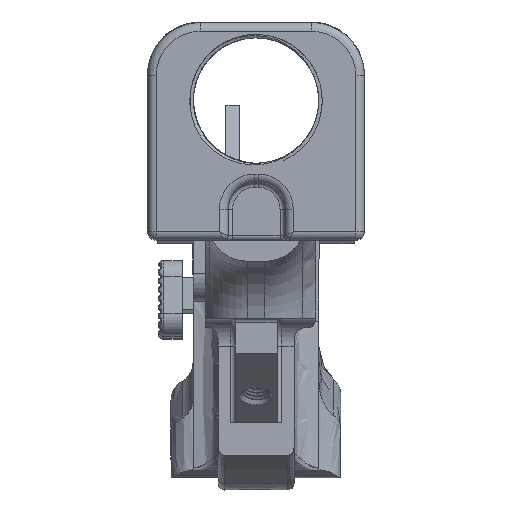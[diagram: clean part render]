
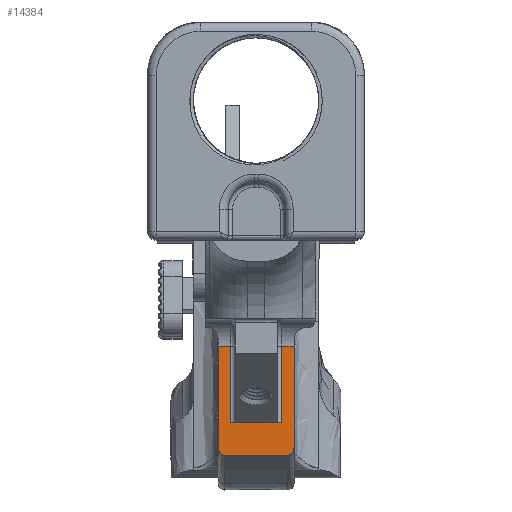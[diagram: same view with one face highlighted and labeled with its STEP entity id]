
A CAD part, front view. The second image highlights one B-rep face of the part: STEP entity #14384.
In plain terms, the highlighted planar face has unit normal (0, -1, 0).
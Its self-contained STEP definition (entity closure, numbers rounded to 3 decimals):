
#336=PLANE('',#15451);
#1019=LINE('',#29492,#1927);
#1023=LINE('',#29514,#1931);
#1040=LINE('',#29679,#1948);
#1042=LINE('',#29725,#1950);
#1043=LINE('',#29727,#1951);
#1044=LINE('',#29728,#1952);
#1045=LINE('',#29743,#1953);
#1046=LINE('',#29756,#1954);
#1927=VECTOR('',#17614,25.502);
#1931=VECTOR('',#17638,25.502);
#1948=VECTOR('',#17677,1.);
#1950=VECTOR('',#17693,9.525);
#1951=VECTOR('',#17694,10.);
#1952=VECTOR('',#17695,10.);
#1953=VECTOR('',#17696,10.);
#1954=VECTOR('',#17697,10.);
#2966=FACE_OUTER_BOUND('',#3810,.T.);
#3810=EDGE_LOOP('',(#11253,#11254,#11255,#11256,#11257,#11258,#11259,#11260,
#11261,#11262));
#4660=B_SPLINE_CURVE_WITH_KNOTS('',3,(#29730,#29731,#29732,#29733,#29734,
#29735,#29736,#29737,#29738,#29739,#29740,#29741),.UNSPECIFIED.,.F.,.F.,
(4,2,2,2,2,4),(0.,0.047,0.099,0.163,
0.214,0.267),.UNSPECIFIED.);
#4661=B_SPLINE_CURVE_WITH_KNOTS('',3,(#29744,#29745,#29746,#29747,#29748,
#29749,#29750,#29751,#29752,#29753,#29754,#29755),.UNSPECIFIED.,.F.,.F.,
(4,2,2,2,2,4),(0.,0.09,0.167,0.225,
0.253,0.281),.UNSPECIFIED.);
#6384=VERTEX_POINT('',#29482);
#6385=VERTEX_POINT('',#29491);
#6392=VERTEX_POINT('',#29511);
#6393=VERTEX_POINT('',#29513);
#6420=VERTEX_POINT('',#29678);
#6427=VERTEX_POINT('',#29723);
#6428=VERTEX_POINT('',#29724);
#6429=VERTEX_POINT('',#29726);
#6430=VERTEX_POINT('',#29729);
#6431=VERTEX_POINT('',#29742);
#8167=EDGE_CURVE('',#6385,#6384,#1019,.T.);
#8178=EDGE_CURVE('',#6392,#6393,#1023,.T.);
#8212=EDGE_CURVE('',#6392,#6420,#1040,.T.);
#8221=EDGE_CURVE('',#6427,#6428,#1042,.T.);
#8222=EDGE_CURVE('',#6429,#6427,#1043,.T.);
#8223=EDGE_CURVE('',#6429,#6385,#1044,.T.);
#8224=EDGE_CURVE('',#6430,#6384,#4660,.T.);
#8225=EDGE_CURVE('',#6430,#6431,#1045,.T.);
#8226=EDGE_CURVE('',#6393,#6431,#4661,.T.);
#8227=EDGE_CURVE('',#6428,#6420,#1046,.T.);
#11253=ORIENTED_EDGE('',*,*,#8221,.F.);
#11254=ORIENTED_EDGE('',*,*,#8222,.F.);
#11255=ORIENTED_EDGE('',*,*,#8223,.T.);
#11256=ORIENTED_EDGE('',*,*,#8167,.T.);
#11257=ORIENTED_EDGE('',*,*,#8224,.F.);
#11258=ORIENTED_EDGE('',*,*,#8225,.T.);
#11259=ORIENTED_EDGE('',*,*,#8226,.F.);
#11260=ORIENTED_EDGE('',*,*,#8178,.F.);
#11261=ORIENTED_EDGE('',*,*,#8212,.T.);
#11262=ORIENTED_EDGE('',*,*,#8227,.F.);
#14384=ADVANCED_FACE('',(#2966),#336,.T.);
#15451=AXIS2_PLACEMENT_3D('',#29722,#17691,#17692);
#17614=DIRECTION('',(0.,0.,-1.));
#17638=DIRECTION('',(0.,0.,-1.));
#17677=DIRECTION('',(-1.,0.,0.));
#17691=DIRECTION('center_axis',(0.,-1.,
0.));
#17692=DIRECTION('ref_axis',(0.,0.,1.));
#17693=DIRECTION('',(1.,0.,0.));
#17694=DIRECTION('',(0.,0.,-1.));
#17695=DIRECTION('',(-1.,0.,0.));
#17696=DIRECTION('',(1.,0.,0.));
#17697=DIRECTION('',(0.,0.,1.));
#29482=CARTESIAN_POINT('',(13.64,-58.86,-41.116));
#29491=CARTESIAN_POINT('',(13.641,-58.86,-18.29));
#29492=CARTESIAN_POINT('',(13.641,-58.86,-18.343));
#29511=CARTESIAN_POINT('',(30.939,-58.853,-18.291));
#29513=CARTESIAN_POINT('',(30.938,-58.853,-41.117));
#29514=CARTESIAN_POINT('',(30.939,-58.853,-18.343));
#29678=CARTESIAN_POINT('',(28.053,-58.854,-18.29));
#29679=CARTESIAN_POINT('',(30.939,-58.853,-18.291));
#29722=CARTESIAN_POINT('Origin',(30.938,-58.853,-44.607));
#29723=CARTESIAN_POINT('',(16.527,-58.859,-35.615));
#29724=CARTESIAN_POINT('',(28.052,-58.854,-35.615));
#29725=CARTESIAN_POINT('',(17.527,-58.859,-35.615));
#29726=CARTESIAN_POINT('',(16.528,-58.859,-18.29));
#29727=CARTESIAN_POINT('',(16.528,-58.859,-14.741));
#29728=CARTESIAN_POINT('',(10.781,-58.861,-18.29));
#29729=CARTESIAN_POINT('',(15.14,-58.86,-43.006));
#29730=CARTESIAN_POINT('Ctrl Pts',(15.14,-58.86,-43.006));
#29731=CARTESIAN_POINT('Ctrl Pts',(14.983,-58.86,-43.006));
#29732=CARTESIAN_POINT('Ctrl Pts',(14.83,-58.86,-42.975));
#29733=CARTESIAN_POINT('Ctrl Pts',(14.523,-58.86,-42.852));
#29734=CARTESIAN_POINT('Ctrl Pts',(14.378,-58.86,-42.756));
#29735=CARTESIAN_POINT('Ctrl Pts',(14.094,-58.86,-42.493));
#29736=CARTESIAN_POINT('Ctrl Pts',(13.968,-58.86,-42.316));
#29737=CARTESIAN_POINT('Ctrl Pts',(13.795,-58.86,-41.972));
#29738=CARTESIAN_POINT('Ctrl Pts',(13.738,-58.86,-41.808));
#29739=CARTESIAN_POINT('Ctrl Pts',(13.66,-58.86,-41.469));
#29740=CARTESIAN_POINT('Ctrl Pts',(13.64,-58.86,-41.292));
#29741=CARTESIAN_POINT('Ctrl Pts',(13.64,-58.86,-41.116));
#29742=CARTESIAN_POINT('',(29.438,-58.853,-43.007));
#29743=CARTESIAN_POINT('',(13.64,-58.86,-43.006));
#29744=CARTESIAN_POINT('Ctrl Pts',(30.938,-58.853,-41.117));
#29745=CARTESIAN_POINT('Ctrl Pts',(30.938,-58.853,-41.418));
#29746=CARTESIAN_POINT('Ctrl Pts',(30.881,-58.853,-41.72));
#29747=CARTESIAN_POINT('Ctrl Pts',(30.667,-58.853,-42.231));
#29748=CARTESIAN_POINT('Ctrl Pts',(30.531,-58.853,-42.437));
#29749=CARTESIAN_POINT('Ctrl Pts',(30.24,-58.853,-42.727));
#29750=CARTESIAN_POINT('Ctrl Pts',(30.093,-58.853,-42.831));
#29751=CARTESIAN_POINT('Ctrl Pts',(29.851,-58.853,-42.936));
#29752=CARTESIAN_POINT('Ctrl Pts',(29.77,-58.853,-42.963));
#29753=CARTESIAN_POINT('Ctrl Pts',(29.605,-58.853,-42.998));
#29754=CARTESIAN_POINT('Ctrl Pts',(29.522,-58.853,-43.007));
#29755=CARTESIAN_POINT('Ctrl Pts',(29.438,-58.853,-43.007));
#29756=CARTESIAN_POINT('',(28.053,-58.854,-14.742));
